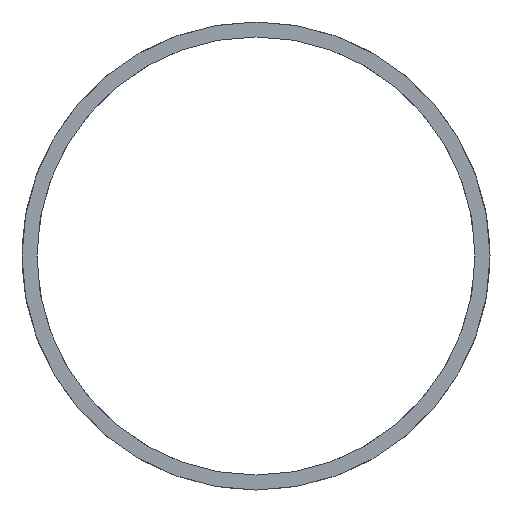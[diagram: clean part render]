
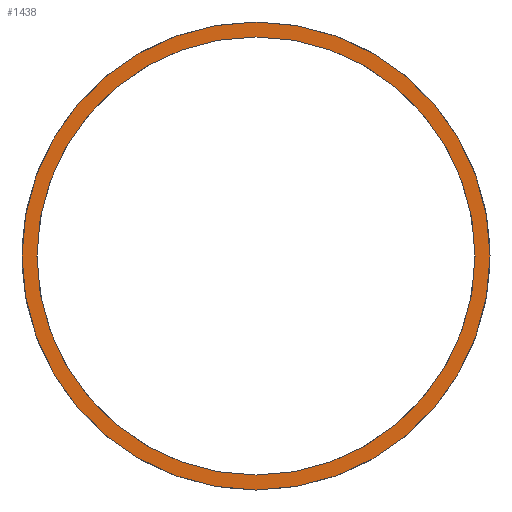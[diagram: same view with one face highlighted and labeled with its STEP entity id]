
A CAD part, left-side view. The second image highlights one B-rep face of the part: STEP entity #1438.
In plain terms, the highlighted planar face has unit normal (-1, 0, 0).
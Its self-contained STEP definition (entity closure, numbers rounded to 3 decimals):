
#22 = VERTEX_POINT('',#23);
#23 = CARTESIAN_POINT('',(28.,0.,18.75));
#32 = CYLINDRICAL_SURFACE('',#33,18.75);
#33 = AXIS2_PLACEMENT_3D('',#34,#35,#36);
#34 = CARTESIAN_POINT('',(28.,0.,0.));
#35 = DIRECTION('',(1.,0.,0.));
#36 = DIRECTION('',(-0.,0.,1.));
#294 = EDGE_CURVE('',#22,#22,#295,.T.);
#295 = SURFACE_CURVE('',#296,(#301,#308),.PCURVE_S1.);
#296 = CIRCLE('',#297,18.75);
#297 = AXIS2_PLACEMENT_3D('',#298,#299,#300);
#298 = CARTESIAN_POINT('',(28.,0.,0.));
#299 = DIRECTION('',(1.,0.,0.));
#300 = DIRECTION('',(-0.,0.,1.));
#301 = PCURVE('',#32,#302);
#302 = DEFINITIONAL_REPRESENTATION('',(#303),#307);
#303 = LINE('',#304,#305);
#304 = CARTESIAN_POINT('',(0.,0.));
#305 = VECTOR('',#306,1.);
#306 = DIRECTION('',(1.,0.));
#307 = ( GEOMETRIC_REPRESENTATION_CONTEXT(2) 
PARAMETRIC_REPRESENTATION_CONTEXT() REPRESENTATION_CONTEXT('2D SPACE',''
  ) );
#308 = PCURVE('',#309,#314);
#309 = PLANE('',#310);
#310 = AXIS2_PLACEMENT_3D('',#311,#312,#313);
#311 = CARTESIAN_POINT('',(28.,0.,0.));
#312 = DIRECTION('',(1.,0.,0.));
#313 = DIRECTION('',(-0.,0.,1.));
#314 = DEFINITIONAL_REPRESENTATION('',(#315),#319);
#315 = CIRCLE('',#316,18.75);
#316 = AXIS2_PLACEMENT_2D('',#317,#318);
#317 = CARTESIAN_POINT('',(0.,0.));
#318 = DIRECTION('',(1.,0.));
#319 = ( GEOMETRIC_REPRESENTATION_CONTEXT(2) 
PARAMETRIC_REPRESENTATION_CONTEXT() REPRESENTATION_CONTEXT('2D SPACE',''
  ) );
#361 = CYLINDRICAL_SURFACE('',#362,17.55);
#362 = AXIS2_PLACEMENT_3D('',#363,#364,#365);
#363 = CARTESIAN_POINT('',(27.,0.,0.));
#364 = DIRECTION('',(1.,0.,0.));
#365 = DIRECTION('',(-0.,0.,1.));
#448 = VERTEX_POINT('',#449);
#449 = CARTESIAN_POINT('',(28.,0.,17.55));
#658 = EDGE_CURVE('',#448,#448,#659,.T.);
#659 = SURFACE_CURVE('',#660,(#665,#672),.PCURVE_S1.);
#660 = CIRCLE('',#661,17.55);
#661 = AXIS2_PLACEMENT_3D('',#662,#663,#664);
#662 = CARTESIAN_POINT('',(28.,0.,0.));
#663 = DIRECTION('',(1.,0.,0.));
#664 = DIRECTION('',(-0.,0.,1.));
#665 = PCURVE('',#361,#666);
#666 = DEFINITIONAL_REPRESENTATION('',(#667),#671);
#667 = LINE('',#668,#669);
#668 = CARTESIAN_POINT('',(0.,1.));
#669 = VECTOR('',#670,1.);
#670 = DIRECTION('',(1.,0.));
#671 = ( GEOMETRIC_REPRESENTATION_CONTEXT(2) 
PARAMETRIC_REPRESENTATION_CONTEXT() REPRESENTATION_CONTEXT('2D SPACE',''
  ) );
#672 = PCURVE('',#309,#673);
#673 = DEFINITIONAL_REPRESENTATION('',(#674),#678);
#674 = CIRCLE('',#675,17.55);
#675 = AXIS2_PLACEMENT_2D('',#676,#677);
#676 = CARTESIAN_POINT('',(0.,0.));
#677 = DIRECTION('',(1.,0.));
#678 = ( GEOMETRIC_REPRESENTATION_CONTEXT(2) 
PARAMETRIC_REPRESENTATION_CONTEXT() REPRESENTATION_CONTEXT('2D SPACE',''
  ) );
#1438 = ADVANCED_FACE('',(#1439,#1442),#309,.F.);
#1439 = FACE_BOUND('',#1440,.F.);
#1440 = EDGE_LOOP('',(#1441));
#1441 = ORIENTED_EDGE('',*,*,#294,.T.);
#1442 = FACE_BOUND('',#1443,.F.);
#1443 = EDGE_LOOP('',(#1444));
#1444 = ORIENTED_EDGE('',*,*,#658,.F.);
